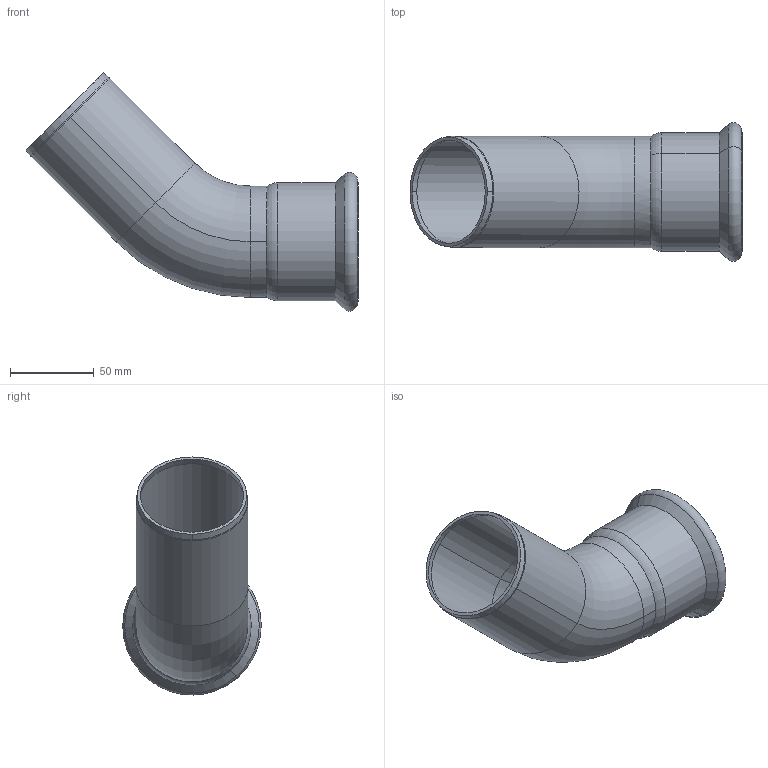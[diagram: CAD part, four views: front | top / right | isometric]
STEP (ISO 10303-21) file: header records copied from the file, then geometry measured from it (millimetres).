
FILE_DESCRIPTION(('CoCreate Modeling STEP Export'),'2;1');
FILE_NAME('C1412 67x67.stp','2014-10-23T15:53:48',(''),(''),'CoCreate Modeling STEP processor for AP214 (Solid Model)','CoCreate Modeling 17.00A 17-Jun-2010 (C) Parametric Technology GmbH','');
FILE_SCHEMA(('AUTOMOTIVE_DESIGN { 1 0 10303 214 1 1 1 1 }'));
Length unit declared in the file: millimetre
Products named in the file (1): BOCHT45PRØ_67mm
Bounding box: 198.69 x 82.91 x 142.47 mm (x, y, z)
Volume: 88869.8 mm3; surface area: 87761.7 mm2
Topology: 1 solids, 1 shells, 45 faces, 109 edges, 67 vertices
Faces by surface type: cylinder 16, cone 14, torus 12, plane 3
Entity records: 1062 total; most frequent: ORIENTED_EDGE 218, CARTESIAN_POINT 160, DIRECTION 156, EDGE_CURVE 109, VERTEX_POINT 67, AXIS2_PLACEMENT_3D 63, EDGE_LOOP 48, FACE_OUTER_BOUND 45
